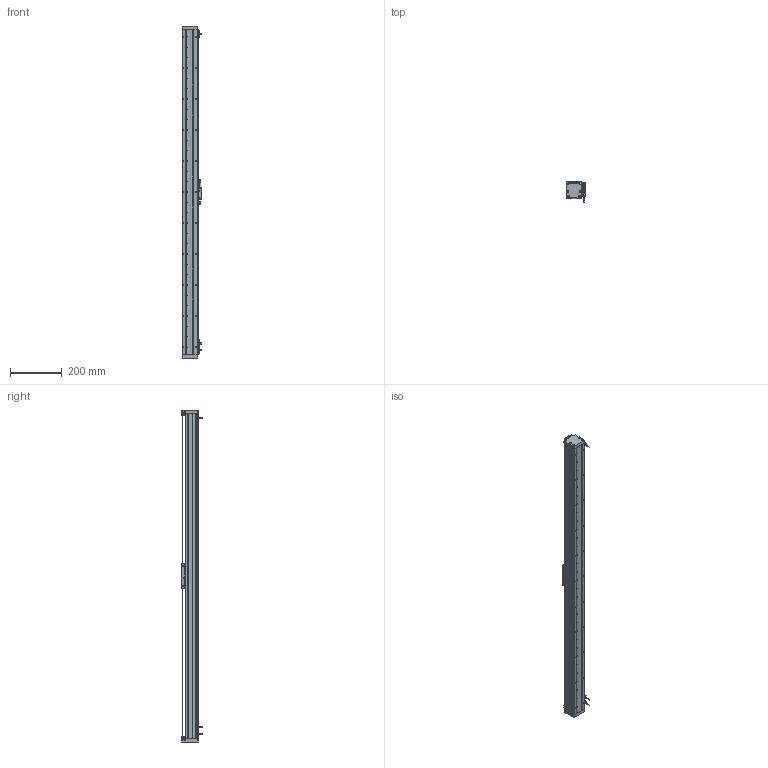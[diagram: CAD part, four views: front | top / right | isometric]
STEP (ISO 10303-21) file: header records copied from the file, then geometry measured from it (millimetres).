
FILE_DESCRIPTION (( 'STEP AP203' ), '1' );
FILE_NAME ('DA-A60-B1-T1120-C010-0.2 眻盄萇儂.STEP', '2025-08-13T02:08:30', ( '' ), ( '' ), 'SwSTEP 2.0', 'SolidWorks 2019', '' );
FILE_SCHEMA (( 'CONFIG_CONTROL_DESIGN' ));
Length unit declared in the file: millimetre
Products named in the file (24): 葩璃 DA60-HK-DP-01 結え^AU60-V 幗紩賑怢; 复件 DA60-DMT-DTJ-00 读数头支架^DA-A60-B1-T-C010-0.2-N 直线电机; DA-A60-B1-T1120-C010-0.2 眻盄萇儂; AU60-V 幗紩賑怢; 葩璃 AKM01-W030-TRL^DA-A60-B1-T-C010-0.2-N 眻盄萇儂; 13679-0000-005-00 詩湍嶺輸; DA60-XJ-00 砎蝶結輸; 葩璃 PM-T45^DA-A60-B1-T-C010-0.2-N 眻盄萇儂; AU60-L 菁釱絳寢; DA60嶺詩湍郪璃-T1060; IU-AU60-L-00 菁釱(1260); 复件 BAKM01-W030-C1-TP-0.2 直线电机动子^DA-A60-B1-T-C010-0.2-N 直线电机; DA-A60-GD-1020-00 钢带盖板(默认); 复件 DA60-B1-GT-00 滑块钢轨^DA60-YT-B1-HT-B-01 一体化滑动台板; 13679-0000-004-00 傷啣; 13679-0000-006-00  钢带压块(默认); 复件 DA-A60-GYP-DMT-00 光电感应片^DA-A60-B1-T-C010-0.2-N 直线电机(默认); DA60-B1-HT-B-03 賑雄怢啣; 复件 纯铜油杯 6x6mm^AU60-V 滚珠滑台; 复件 六角薄螺母 M3^DA-A60-B1-T-C010-0.2-N 直线电机(GB_FASTENER_NUT_STNAB M3-C); DA60-YT-B1-HT-B-01 珨极趙賑雄怢啣; 复件 DA60-GT-T-00 底座钢轨^AU60-L 底座导轨; 葩璃 DMT-010 1米m 0.2M^DA-A60-B1-T-C010-0.2-N 眻盄萇儂; 复件 XD-U-02  磁栅尺^DA-A60-B1-T-C010-0.2-N 直线电机
Assembly tree (38 placements, depth 4):
  DA-A60-B1-T1120-C010-0.2 眻盄萇儂
    AU60-L 菁釱絳寢
      IU-AU60-L-00 菁釱(1260)
      复件 DA60-GT-T-00 底座钢轨^AU60-L 底座导轨  x2
    AU60-V 幗紩賑怢
      DA60-YT-B1-HT-B-01 珨极趙賑雄怢啣
        DA60-B1-HT-B-03 賑雄怢啣
        复件 DA60-B1-GT-00 滑块钢轨^DA60-YT-B1-HT-B-01 一体化滑动台板  x2
      葩璃 DA60-HK-DP-01 結え^AU60-V 幗紩賑怢  x2
      复件 纯铜油杯 6x6mm^AU60-V 滚珠滑台
    DA60嶺詩湍郪璃-T1060
      13679-0000-006-00  钢带压块(默认)  x2
      DA-A60-GD-1020-00 钢带盖板(默认)
      13679-0000-004-00 傷啣  x2
      DA60-XJ-00 砎蝶結輸  x2
      13679-0000-005-00 詩湍嶺輸  x2
    复件 DA-A60-GYP-DMT-00 光电感应片^DA-A60-B1-T-C010-0.2-N 直线电机(默认)  x2
    复件 DA60-DMT-DTJ-00 读数头支架^DA-A60-B1-T-C010-0.2-N 直线电机
    葩璃 DMT-010 1米m 0.2M^DA-A60-B1-T-C010-0.2-N 眻盄萇儂
    复件 BAKM01-W030-C1-TP-0.2 直线电机动子^DA-A60-B1-T-C010-0.2-N 直线电机
    葩璃 AKM01-W030-TRL^DA-A60-B1-T-C010-0.2-N 眻盄萇儂
    葩璃 PM-T45^DA-A60-B1-T-C010-0.2-N 眻盄萇儂  x3
    复件 XD-U-02  磁栅尺^DA-A60-B1-T-C010-0.2-N 直线电机
    复件 六角薄螺母 M3^DA-A60-B1-T-C010-0.2-N 直线电机(GB_FASTENER_NUT_STNAB M3-C)  x6
Bounding box: 76.95 x 80 x 1284 mm (x, y, z)
Volume: 2503223.8 mm3; surface area: 902622.9 mm2
Topology: 39 solids, 41 shells, 2222 faces, 6194 edges, 3957 vertices
Faces by surface type: plane 1021, cylinder 1003, cone 186, bspline 7, torus 4, sphere 1
Entity records: 64662 total; most frequent: CARTESIAN_POINT 15237, ORIENTED_EDGE 9936, DIRECTION 9504, EDGE_CURVE 4968, AXIS2_PLACEMENT_3D 3351, VERTEX_POINT 3235, LINE 2802, VECTOR 2802
